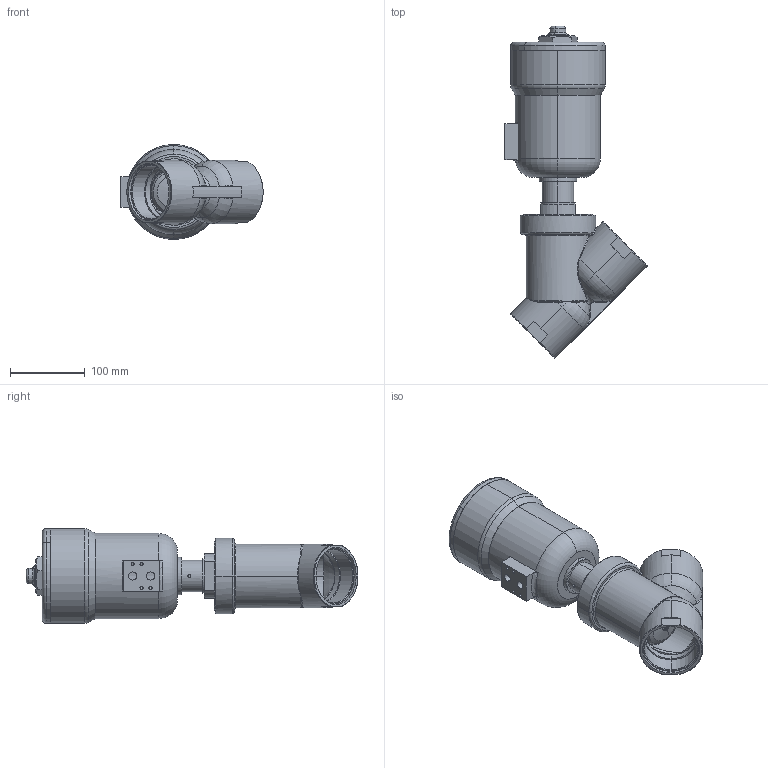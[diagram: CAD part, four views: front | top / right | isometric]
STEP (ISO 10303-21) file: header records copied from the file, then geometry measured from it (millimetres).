
FILE_DESCRIPTION (( 'STEP AP203' ), '1' );
FILE_NAME ('PCIPFM_065_3_1.STEP', '2017-07-25T16:54:08', ( 'user' ), ( '' ), 'SwSTEP 2.0', 'SolidWorks 2013', '' );
FILE_SCHEMA (( 'CONFIG_CONTROL_DESIGN' ));
Length unit declared in the file: millimetre
Products named in the file (1): PCIPFM_065_3_1
Bounding box: 190.5 x 444.73 x 127 mm (x, y, z)
Surface area: 241590.6 mm2 (no closed solid volume)
Topology: 0 solids, 11 shells, 261 faces, 689 edges, 434 vertices
Faces by surface type: cylinder 67, plane 63, cone 48, bspline 46, torus 37
Entity records: 11188 total; most frequent: CARTESIAN_POINT 4984, DIRECTION 1282, ORIENTED_EDGE 1244, EDGE_CURVE 689, AXIS2_PLACEMENT_3D 544, VERTEX_POINT 434, CIRCLE 328, EDGE_LOOP 287
